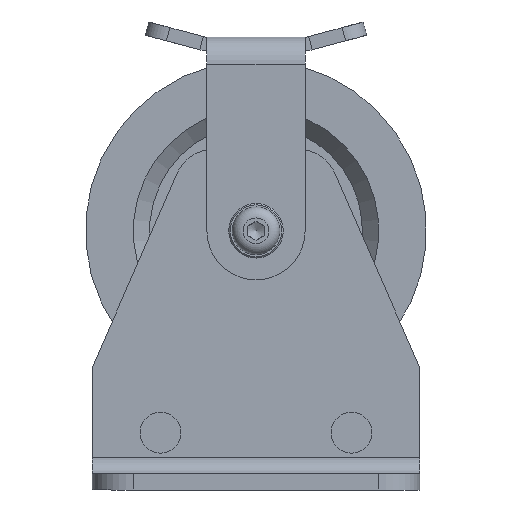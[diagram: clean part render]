
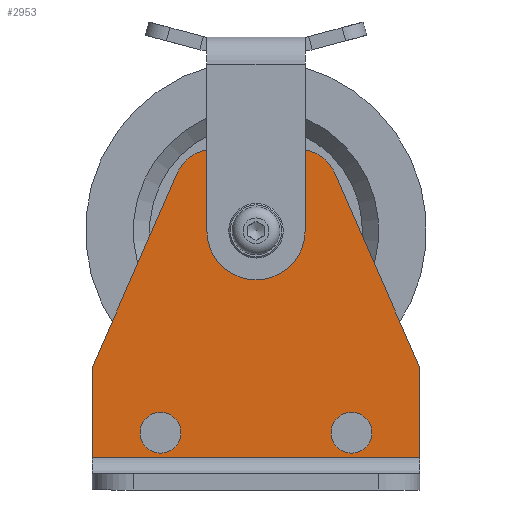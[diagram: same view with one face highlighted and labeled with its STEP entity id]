
A CAD part, front view. The second image highlights one B-rep face of the part: STEP entity #2953.
In plain terms, the highlighted planar face has unit normal (0, -1, 0) as drawn and (0, 0, 1) by its records, which use the part's own axes.
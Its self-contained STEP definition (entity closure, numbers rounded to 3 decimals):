
#221=FACE_BOUND('',#563,.T.);
#222=FACE_BOUND('',#564,.T.);
#223=FACE_BOUND('',#565,.T.);
#287=PLANE('',#3469);
#381=FACE_OUTER_BOUND('',#562,.T.);
#562=EDGE_LOOP('',(#2169,#2170,#2171,#2172,#2173,#2174,#2175,#2176));
#563=EDGE_LOOP('',(#2177));
#564=EDGE_LOOP('',(#2178));
#565=EDGE_LOOP('',(#2179));
#788=LINE('',#4964,#952);
#791=LINE('',#4970,#955);
#799=LINE('',#5004,#963);
#803=LINE('',#5013,#967);
#806=LINE('',#5020,#970);
#807=LINE('',#5022,#971);
#952=VECTOR('',#3948,10.);
#955=VECTOR('',#3953,10.);
#963=VECTOR('',#3987,10.);
#967=VECTOR('',#3997,10.);
#970=VECTOR('',#4006,10.);
#971=VECTOR('',#4009,10.);
#1104=CIRCLE('',#3456,7.5);
#1105=CIRCLE('',#3458,7.5);
#1106=CIRCLE('',#3460,5.2);
#1107=CIRCLE('',#3463,15.);
#1108=CIRCLE('',#3466,15.);
#1332=VERTEX_POINT('',#4955);
#1333=VERTEX_POINT('',#4959);
#1335=VERTEX_POINT('',#4968);
#1344=VERTEX_POINT('',#4990);
#1345=VERTEX_POINT('',#4994);
#1346=VERTEX_POINT('',#4998);
#1347=VERTEX_POINT('',#5002);
#1348=VERTEX_POINT('',#5003);
#1349=VERTEX_POINT('',#5008);
#1350=VERTEX_POINT('',#5012);
#1351=VERTEX_POINT('',#5016);
#1649=EDGE_CURVE('',#1332,#1333,#788,.T.);
#1652=EDGE_CURVE('',#1335,#1333,#791,.T.);
#1663=EDGE_CURVE('',#1344,#1344,#1104,.T.);
#1665=EDGE_CURVE('',#1345,#1345,#1105,.T.);
#1667=EDGE_CURVE('',#1346,#1346,#1106,.T.);
#1668=EDGE_CURVE('',#1347,#1348,#799,.T.);
#1671=EDGE_CURVE('',#1348,#1349,#1107,.T.);
#1673=EDGE_CURVE('',#1349,#1350,#803,.T.);
#1675=EDGE_CURVE('',#1350,#1351,#1108,.T.);
#1677=EDGE_CURVE('',#1351,#1335,#806,.T.);
#1678=EDGE_CURVE('',#1332,#1347,#807,.T.);
#2169=ORIENTED_EDGE('',*,*,#1649,.T.);
#2170=ORIENTED_EDGE('',*,*,#1652,.F.);
#2171=ORIENTED_EDGE('',*,*,#1677,.F.);
#2172=ORIENTED_EDGE('',*,*,#1675,.F.);
#2173=ORIENTED_EDGE('',*,*,#1673,.F.);
#2174=ORIENTED_EDGE('',*,*,#1671,.F.);
#2175=ORIENTED_EDGE('',*,*,#1668,.F.);
#2176=ORIENTED_EDGE('',*,*,#1678,.F.);
#2177=ORIENTED_EDGE('',*,*,#1663,.T.);
#2178=ORIENTED_EDGE('',*,*,#1665,.T.);
#2179=ORIENTED_EDGE('',*,*,#1667,.T.);
#2953=ADVANCED_FACE('',(#381,#221,#222,#223),#287,.T.);
#3456=AXIS2_PLACEMENT_3D('',#4992,#3973,#3974);
#3458=AXIS2_PLACEMENT_3D('',#4996,#3978,#3979);
#3460=AXIS2_PLACEMENT_3D('',#5000,#3983,#3984);
#3463=AXIS2_PLACEMENT_3D('',#5009,#3992,#3993);
#3466=AXIS2_PLACEMENT_3D('',#5017,#4001,#4002);
#3469=AXIS2_PLACEMENT_3D('',#5023,#4010,#4011);
#3948=DIRECTION('',(1.,0.,0.));
#3953=DIRECTION('',(0.,-1.,0.));
#3973=DIRECTION('center_axis',(0.,0.,-1.));
#3974=DIRECTION('ref_axis',(-1.,0.,0.));
#3978=DIRECTION('center_axis',(0.,0.,-1.));
#3979=DIRECTION('ref_axis',(-1.,0.,0.));
#3983=DIRECTION('center_axis',(0.,0.,-1.));
#3984=DIRECTION('ref_axis',(-1.,0.,0.));
#3987=DIRECTION('',(0.401,0.916,0.));
#3992=DIRECTION('center_axis',(0.,0.,-1.));
#3993=DIRECTION('ref_axis',(0.,1.,0.));
#3997=DIRECTION('',(1.,0.,0.));
#4001=DIRECTION('center_axis',(0.,0.,-1.));
#4002=DIRECTION('ref_axis',(0.916,0.401,0.));
#4006=DIRECTION('',(0.401,-0.916,0.));
#4009=DIRECTION('',(0.,1.,0.));
#4010=DIRECTION('center_axis',(0.,0.,1.));
#4011=DIRECTION('ref_axis',(1.,0.,0.));
#4955=CARTESIAN_POINT('',(-60.,12.,6.));
#4959=CARTESIAN_POINT('',(60.,12.,6.));
#4964=CARTESIAN_POINT('',(30.,12.,6.));
#4968=CARTESIAN_POINT('',(60.,45.,6.));
#4970=CARTESIAN_POINT('',(60.,0.,6.));
#4990=CARTESIAN_POINT('',(42.5,21.,6.));
#4992=CARTESIAN_POINT('Origin',(35.,21.,6.));
#4994=CARTESIAN_POINT('',(-27.5,21.,6.));
#4996=CARTESIAN_POINT('Origin',(-35.,21.,6.));
#4998=CARTESIAN_POINT('',(5.2,95.,6.));
#5000=CARTESIAN_POINT('Origin',(0.,95.,6.));
#5002=CARTESIAN_POINT('',(-60.,45.,6.));
#5003=CARTESIAN_POINT('',(-28.932,116.012,6.));
#5004=CARTESIAN_POINT('',(-28.932,116.012,6.));
#5008=CARTESIAN_POINT('',(-15.19,125.,6.));
#5009=CARTESIAN_POINT('Origin',(-15.19,110.,6.));
#5012=CARTESIAN_POINT('',(15.19,125.,6.));
#5013=CARTESIAN_POINT('',(15.19,125.,6.));
#5016=CARTESIAN_POINT('',(28.932,116.012,6.));
#5017=CARTESIAN_POINT('Origin',(15.19,110.,6.));
#5020=CARTESIAN_POINT('',(60.,45.,6.));
#5022=CARTESIAN_POINT('',(-60.,45.,6.));
#5023=CARTESIAN_POINT('Origin',(0.,52.383,6.));
